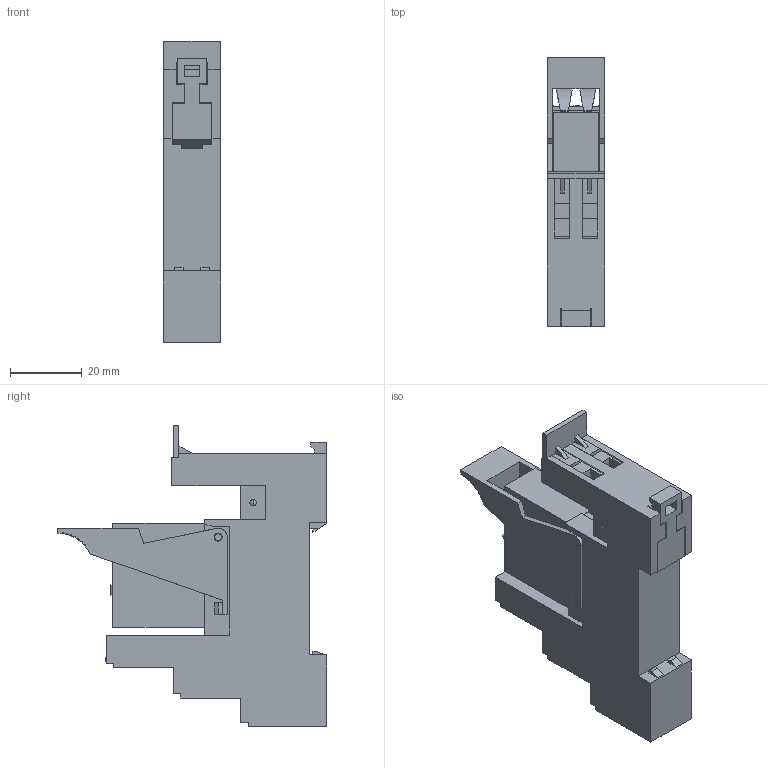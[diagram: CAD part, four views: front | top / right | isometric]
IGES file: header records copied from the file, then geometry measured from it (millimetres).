
Start section: SolidWorks IGES file using analytic representation for surfaces
Global section: file name: D:\X - Arquivos\PROEX\Empresas\P11 - METALTEX\01 - Produtos\IGES\6ª remessa\5ª etapa\PRT7-2 - IRCG.IGS; native system: SolidWorks 2012; preprocessor: SolidWorks 2012; author: Usuario; date: 190327.094657; units: millimetre
Bounding box: 15.9 x 74.75 x 83.8 mm (x, y, z)
Surface area: 18409.6 mm2 (no closed solid volume)
Topology: 0 solids, 0 shells, 790 faces, 6505 edges, 6505 vertices
Faces by surface type: bspline 729, revolution 61
